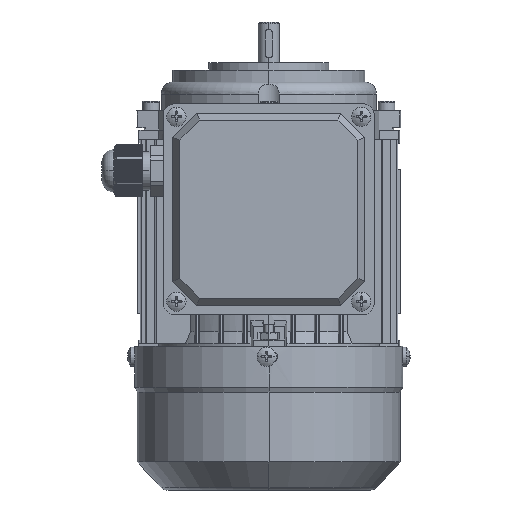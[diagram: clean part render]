
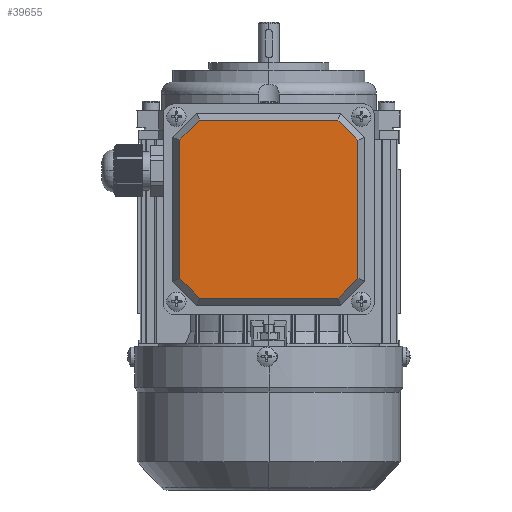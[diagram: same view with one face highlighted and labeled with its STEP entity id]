
A CAD part, left-side view. The second image highlights one B-rep face of the part: STEP entity #39655.
In plain terms, the highlighted planar face has unit normal (-1, 0, 0) as drawn and (0, 1, 0) by its records, which use the part's own axes.
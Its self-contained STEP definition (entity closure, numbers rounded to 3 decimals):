
#7706 = CARTESIAN_POINT ( 'NONE',  ( -37.113, 5., 28.804 ) ) ;
#7767 = DIRECTION ( 'NONE',  ( 0., 0., -1. ) ) ;
#7768 = VECTOR ( 'NONE', #7767, 1000. ) ;
#7769 = CARTESIAN_POINT ( 'NONE',  ( 37.113, 5., 30. ) ) ;
#7770 = LINE ( 'NONE', #7769, #7768 ) ;
#7777 = CARTESIAN_POINT ( 'NONE',  ( 37.113, 5., -28.804 ) ) ;
#7782 = CARTESIAN_POINT ( 'NONE',  ( -28.804, 5., 37.113 ) ) ;
#7792 = DIRECTION ( 'NONE',  ( 0., 0., 1. ) ) ;
#7793 = VECTOR ( 'NONE', #7792, 1000. ) ;
#7794 = CARTESIAN_POINT ( 'NONE',  ( -37.113, 5., 30. ) ) ;
#7795 = LINE ( 'NONE', #7794, #7793 ) ;
#7797 = LINE ( 'NONE', #7861, #7860 ) ;
#7815 = CARTESIAN_POINT ( 'NONE',  ( 28.804, 5., 37.113 ) ) ;
#7820 = DIRECTION ( 'NONE',  ( 0.707, 0., 0.707 ) ) ;
#7821 = VECTOR ( 'NONE', #7820, 1000. ) ;
#7822 = CARTESIAN_POINT ( 'NONE',  ( -37.959, 5., 27.959 ) ) ;
#7828 = LINE ( 'NONE', #7822, #7821 ) ;
#7833 = CARTESIAN_POINT ( 'NONE',  ( 37.113, 5., 28.804 ) ) ;
#7838 = CARTESIAN_POINT ( 'NONE',  ( -37.113, 5., -28.804 ) ) ;
#7839 = DIRECTION ( 'NONE',  ( -0.707, 0., 0.707 ) ) ;
#7840 = VECTOR ( 'NONE', #7839, 1000. ) ;
#7841 = CARTESIAN_POINT ( 'NONE',  ( -37.959, 5., -27.959 ) ) ;
#7842 = LINE ( 'NONE', #7841, #7840 ) ;
#7843 = DIRECTION ( 'NONE',  ( 0., 0., -1. ) ) ;
#7844 = DIRECTION ( 'NONE',  ( 0., -1., 0. ) ) ;
#7845 = AXIS2_PLACEMENT_3D ( 'NONE', #7846, #7844, #7843 ) ;
#7846 = CARTESIAN_POINT ( 'NONE',  ( -39., 5., -39. ) ) ;
#7847 = PLANE ( 'NONE',  #7845 ) ;
#7848 = FACE_OUTER_BOUND ( 'NONE', #39657, .T. ) ;
#7849 = CARTESIAN_POINT ( 'NONE',  ( -28.804, 5., -37.113 ) ) ;
#7854 = DIRECTION ( 'NONE',  ( -1., 0., 0. ) ) ;
#7855 = VECTOR ( 'NONE', #7854, 1000. ) ;
#7856 = CARTESIAN_POINT ( 'NONE',  ( -30., 5., -37.113 ) ) ;
#7857 = LINE ( 'NONE', #7856, #7855 ) ;
#7858 = CARTESIAN_POINT ( 'NONE',  ( 28.804, 5., -37.113 ) ) ;
#7859 = DIRECTION ( 'NONE',  ( -0.707, 0., -0.707 ) ) ;
#7860 = VECTOR ( 'NONE', #7859, 1000. ) ;
#7861 = CARTESIAN_POINT ( 'NONE',  ( 27.959, 5., -37.959 ) ) ;
#7868 = DIRECTION ( 'NONE',  ( 1., 0., 0. ) ) ;
#7869 = VECTOR ( 'NONE', #7868, 1000. ) ;
#7870 = CARTESIAN_POINT ( 'NONE',  ( -30., 5., 37.113 ) ) ;
#7871 = LINE ( 'NONE', #7870, #7869 ) ;
#7882 = DIRECTION ( 'NONE',  ( 0.707, 0., -0.707 ) ) ;
#7883 = VECTOR ( 'NONE', #7882, 1000. ) ;
#7884 = CARTESIAN_POINT ( 'NONE',  ( 27.959, 5., 37.959 ) ) ;
#7888 = LINE ( 'NONE', #7884, #7883 ) ;
#39574 = VERTEX_POINT ( 'NONE', #7706 ) ;
#39590 = EDGE_CURVE ( 'NONE', #39661, #39574, #7795, .T. ) ;
#39600 = VERTEX_POINT ( 'NONE', #7782 ) ;
#39605 = VERTEX_POINT ( 'NONE', #7777 ) ;
#39607 = EDGE_CURVE ( 'NONE', #39664, #39605, #7770, .T. ) ;
#39610 = EDGE_CURVE ( 'NONE', #39574, #39600, #7828, .T. ) ;
#39615 = VERTEX_POINT ( 'NONE', #7815 ) ;
#39643 = EDGE_CURVE ( 'NONE', #39605, #39646, #7797, .T. ) ;
#39645 = ORIENTED_EDGE ( 'NONE', *, *, #39643, .T. ) ;
#39646 = VERTEX_POINT ( 'NONE', #7858 ) ;
#39649 = EDGE_CURVE ( 'NONE', #39646, #39654, #7857, .T. ) ;
#39650 = ORIENTED_EDGE ( 'NONE', *, *, #39649, .T. ) ;
#39654 = VERTEX_POINT ( 'NONE', #7849 ) ;
#39655 = ADVANCED_FACE ( 'NONE', ( #7848 ), #7847, .F. ) ;
#39656 = ORIENTED_EDGE ( 'NONE', *, *, #39658, .T. ) ;
#39657 = EDGE_LOOP ( 'NONE', ( #39656, #39716, #39717, #39715, #39712, #39713, #39645, #39650 ) ) ;
#39658 = EDGE_CURVE ( 'NONE', #39654, #39661, #7842, .T. ) ;
#39661 = VERTEX_POINT ( 'NONE', #7838 ) ;
#39664 = VERTEX_POINT ( 'NONE', #7833 ) ;
#39672 = EDGE_CURVE ( 'NONE', #39615, #39664, #7888, .T. ) ;
#39676 = EDGE_CURVE ( 'NONE', #39600, #39615, #7871, .T. ) ;
#39712 = ORIENTED_EDGE ( 'NONE', *, *, #39672, .T. ) ;
#39713 = ORIENTED_EDGE ( 'NONE', *, *, #39607, .T. ) ;
#39715 = ORIENTED_EDGE ( 'NONE', *, *, #39676, .T. ) ;
#39716 = ORIENTED_EDGE ( 'NONE', *, *, #39590, .T. ) ;
#39717 = ORIENTED_EDGE ( 'NONE', *, *, #39610, .T. ) ;
